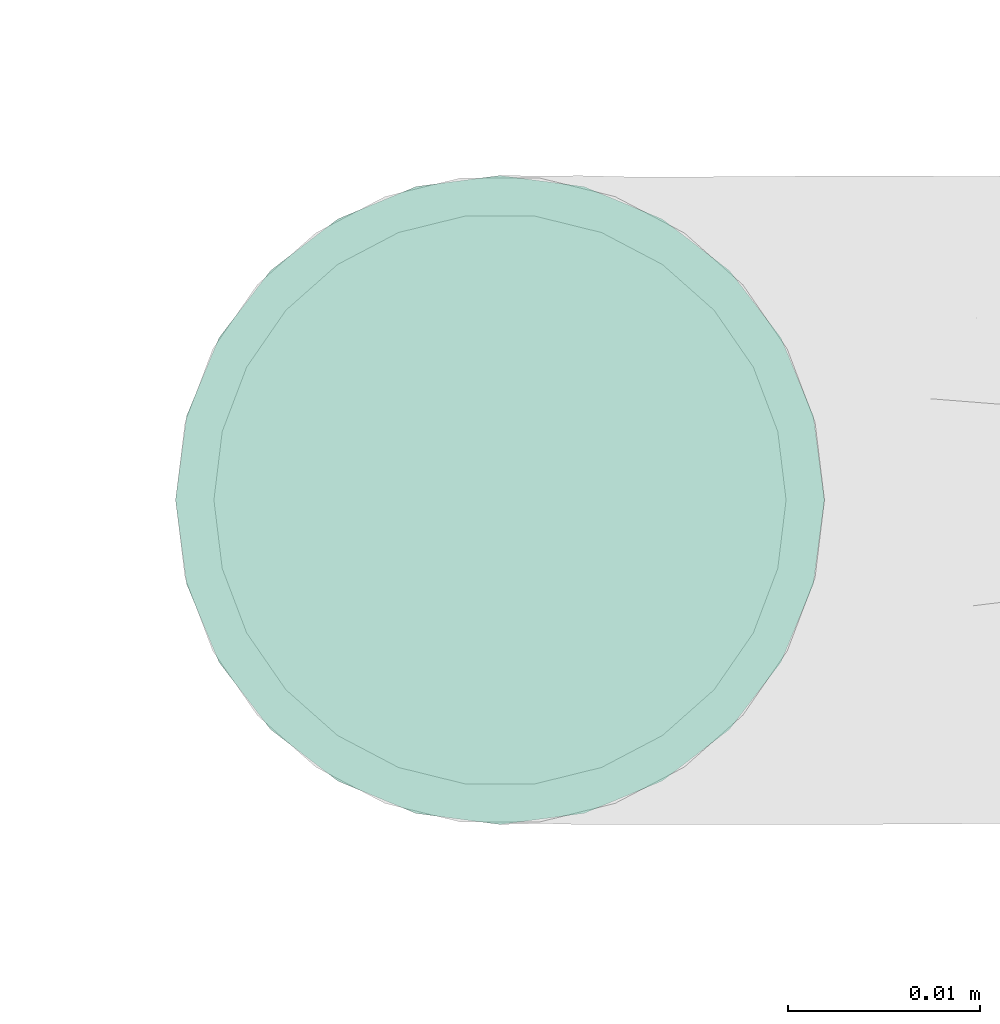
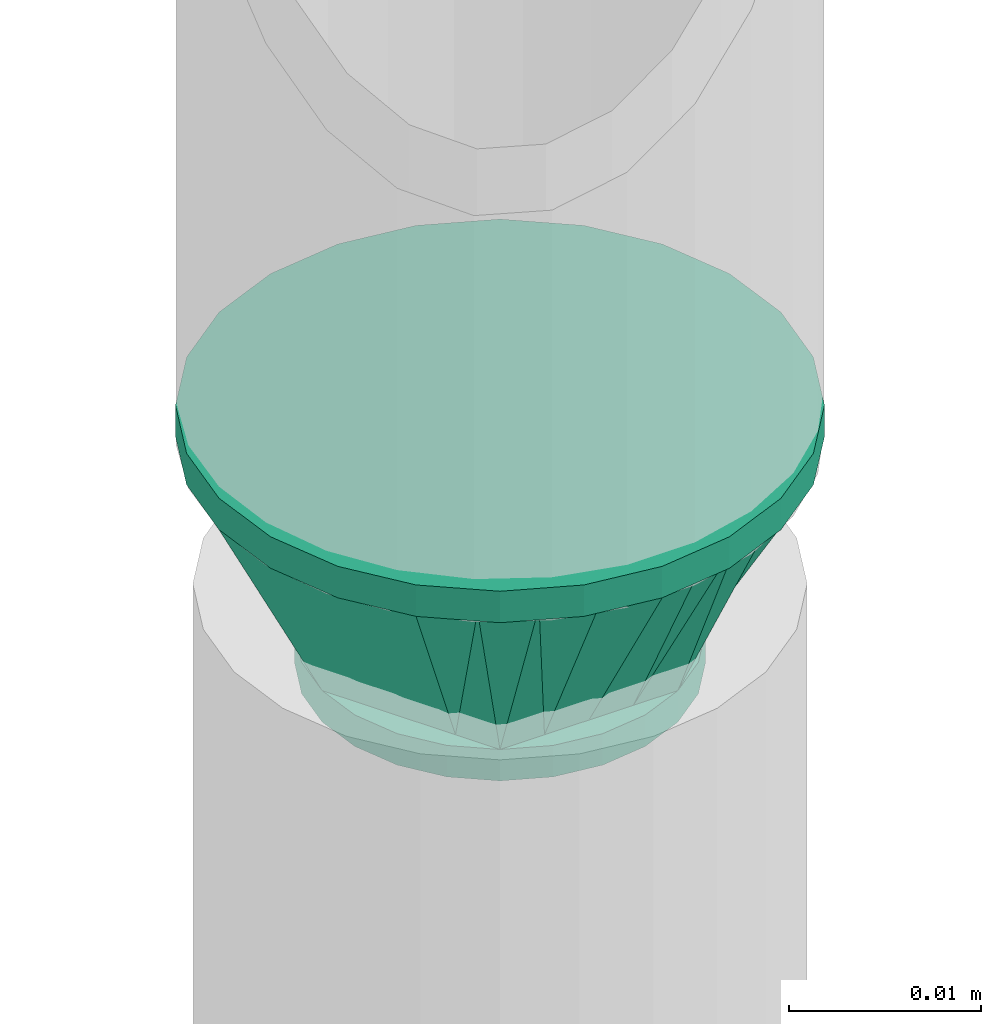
# One storey, part 40 of 94: 1 flow fitting.
"""IFC2X3 building model written with IfcOpenShell, lengths in millimetres."""

import ifcopenshell
import ifcopenshell.guid

model = None  # the IFC model being written
_history = None  # IfcOwnerHistory: only IFC2X3 demands one
_inside = {}  # id of a spatial element -> (the spatial element, [elements in it])
_under = {}  # id of a project, library or spatial element -> (it, [spatial elements below it])
_declared = {}  # id of a project -> (the project, [libraries it declares])
_typed = {}  # id of a type object -> (the type object, [elements of that type])
_made_of = {}  # id of a material, layer set ... -> (it, [elements and type objects made of it])


def new_model(schema):
    """Start an empty IFC model of exactly this schema.

    Asked for "IFC4X3", IfcOpenShell would pick the latest addendum, in which some entities
    have other attributes; the version numbers below select the first issue.
    IFC2X3 requires an IfcOwnerHistory on every rooted entity: one is made here for all.
    """
    global model, _history
    if schema == "IFC4X3":
        model = ifcopenshell.file(schema_version=(4, 3, 0, 0))
    else:
        model = ifcopenshell.file(schema=schema)
    _inside.clear()
    _under.clear()
    _declared.clear()
    _typed.clear()
    _made_of.clear()
    _history = None
    if model.schema == "IFC2X3":
        org = make("IfcOrganization", Name="unknown")
        user = make(
            "IfcPersonAndOrganization",
            ThePerson=make("IfcPerson", FamilyName="unknown"),
            TheOrganization=org,
        )
        app = make(
            "IfcApplication",
            ApplicationDeveloper=org,
            Version="unknown",
            ApplicationFullName="unknown",
            ApplicationIdentifier="unknown",
        )
        _history = make(
            "IfcOwnerHistory",
            OwningUser=user,
            OwningApplication=app,
            ChangeAction="ADDED",
            CreationDate=0,
        )
    return model


def make(cls, **values):
    """One entity of the class cls with the attributes given. An attribute that is None is left unset."""
    return model.create_entity(
        cls, **{name: value for name, value in values.items() if value is not None}
    )


def entity(cls, *values):
    """Any entity or typed value of the class cls, its attributes in the order of the schema. None: left unset."""
    e = model.create_entity(cls)
    for i, value in enumerate(values):
        if value is not None:
            e[i] = value
    return e


def rooted(cls, **values):
    """An entity with a GlobalId (a new one), such as an element, a storey or a relation."""
    return make(cls, GlobalId=ifcopenshell.guid.new(), OwnerHistory=_history, **values)


def si_unit(unit_type, name, prefix=None):
    """IfcSIUnit, for example si_unit("LENGTHUNIT", "METRE", prefix="MILLI")."""
    return make("IfcSIUnit", UnitType=unit_type, Prefix=prefix, Name=name)


def converted_unit(unit_type, name, factor, base, dimensions=None, offset=None):
    """IfcConversionBasedUnit, such as the inch: factor (a typed value) times the base unit."""
    return make(
        "IfcConversionBasedUnit"
        if offset is None
        else "IfcConversionBasedUnitWithOffset",
        ConversionOffset=offset,
        Dimensions=None
        if dimensions is None
        else entity("IfcDimensionalExponents", *dimensions),
        UnitType=unit_type,
        Name=name,
        ConversionFactor=make(
            "IfcMeasureWithUnit", ValueComponent=factor, UnitComponent=base
        ),
    )


def derived_unit(unit_type, elements):
    """IfcDerivedUnit: a product of units, each with its exponent."""
    return make(
        "IfcDerivedUnit",
        Elements=[
            make("IfcDerivedUnitElement", Unit=unit, Exponent=power)
            for unit, power in elements
        ],
        UnitType=unit_type,
    )


def assignment(units):
    """IfcUnitAssignment: the units of a project."""
    return None if units is None else make("IfcUnitAssignment", Units=units)


def point(xyz):
    """IfcCartesianPoint."""
    return None if xyz is None else make("IfcCartesianPoint", Coordinates=xyz)


def direction(xyz):
    """IfcDirection."""
    return None if xyz is None else make("IfcDirection", DirectionRatios=xyz)


def frame(location, z_axis=None, x_axis=None):
    """IfcAxis2Placement3D, a coordinate frame: its origin and axes. An axis left out is left unset."""
    return make(
        "IfcAxis2Placement3D",
        Location=point(location),
        Axis=direction(z_axis),
        RefDirection=direction(x_axis),
    )


def origin_with_axes():
    """The frame at (0, 0, 0) with the z axis (0, 0, 1) and the x axis (1, 0, 0) written out."""
    return frame((0.0, 0.0, 0.0), z_axis=(0.0, 0.0, 1.0), x_axis=(1.0, 0.0, 0.0))


def place(relative_to, where):
    """IfcLocalPlacement: puts the frame where relative to a parent placement (None: the world)."""
    return make(
        "IfcLocalPlacement", PlacementRelTo=relative_to, RelativePlacement=where
    )


def context(
    kind, dimensions, precision=None, world=None, true_north=None, identifier=None
):
    """IfcGeometricRepresentationContext, for example the 3D "Model" context."""
    return make(
        "IfcGeometricRepresentationContext",
        ContextIdentifier=identifier,
        ContextType=kind,
        CoordinateSpaceDimension=dimensions,
        Precision=precision,
        WorldCoordinateSystem=world,
        TrueNorth=true_north,
    )


def subcontext(parent, identifier, kind, view, scale=None):
    """IfcGeometricRepresentationSubContext, for example "Body" below "Model"."""
    return make(
        "IfcGeometricRepresentationSubContext",
        ContextIdentifier=identifier,
        ContextType=kind,
        ParentContext=parent,
        TargetScale=scale,
        TargetView=view,
    )


def project(units=None, contexts=None):
    """IfcProject with its units and contexts."""
    return rooted(
        "IfcProject",
        Name="project",
        RepresentationContexts=contexts,
        UnitsInContext=assignment(units),
    )


def spatial(cls, under=None, at=None, **own):
    """A site, building, storey or space (cls), placed at a placement, below another one or the project."""
    s = rooted(cls, ObjectPlacement=at, **own)
    if under is not None:
        _under.setdefault(under.id(), (under, []))[1].append(s)
    return s


def faces_of(points, faces, orient=None, outer=None):
    """IfcFace entities. A face is a list of loops; a loop is a list of indices into points, from 0.

    orient and outer hold one flag for each loop. By default every Orientation is true, the
    first loop of a face is its IfcFaceOuterBound and the others are IfcFaceBound.
    """
    made = []
    for i, loops in enumerate(faces):
        bounds = []
        for j, loop in enumerate(loops):
            is_outer = j == 0 if outer is None else outer[i][j]
            bounds.append(
                make(
                    "IfcFaceOuterBound" if is_outer else "IfcFaceBound",
                    Bound=make("IfcPolyLoop", Polygon=[points[k] for k in loop]),
                    Orientation=True if orient is None else orient[i][j],
                )
            )
        made.append(make("IfcFace", Bounds=bounds))
    return made


def open_shell(faces, orient=None, outer=None):
    """The faces of one IfcOpenShell. surface_model builds it on its shared points."""
    return ("IfcOpenShell", faces, orient, outer)


def surface_model(cls, points, shells):
    """IfcFaceBasedSurfaceModel or IfcShellBasedSurfaceModel (cls): surfaces that need not close."""
    shared = [point(p) for p in points]
    made = [make(c, CfsFaces=faces_of(shared, fs, o, b)) for c, fs, o, b in shells]
    if cls == "IfcFaceBasedSurfaceModel":
        return make(cls, FbsmFaces=made)
    return make(cls, SbsmBoundary=made)


def shape(context_of_items, identifier, shape_type, items):
    """IfcShapeRepresentation: the items that make up one representation, for example the "Body"."""
    return make(
        "IfcShapeRepresentation",
        ContextOfItems=context_of_items,
        RepresentationIdentifier=identifier,
        RepresentationType=shape_type,
        Items=items,
    )


def source(mapping_origin, context_of_items, identifier, shape_type, items):
    """IfcRepresentationMap: a shape defined once, which mapped items show again and again."""
    return make(
        "IfcRepresentationMap",
        MappingOrigin=mapping_origin,
        MappedRepresentation=shape(context_of_items, identifier, shape_type, items),
    )


def transform(
    local_origin,
    x_axis=None,
    y_axis=None,
    z_axis=None,
    scale=None,
    scale2=None,
    scale3=None,
    uniform=True,
):
    """IfcCartesianTransformationOperator3D, or its non-uniform kind. x_axis, y_axis, z_axis: its Axis1, 2, 3."""
    if uniform:
        return make(
            "IfcCartesianTransformationOperator3D",
            Axis1=direction(x_axis),
            Axis2=direction(y_axis),
            LocalOrigin=point(local_origin),
            Scale=scale,
            Axis3=direction(z_axis),
        )
    return make(
        "IfcCartesianTransformationOperator3DnonUniform",
        Axis1=direction(x_axis),
        Axis2=direction(y_axis),
        LocalOrigin=point(local_origin),
        Scale=scale,
        Axis3=direction(z_axis),
        Scale2=scale2,
        Scale3=scale3,
    )


def mapped(mapping_source, mapping_target):
    """IfcMappedItem: shows the shape of a source again, moved by a transform."""
    return make(
        "IfcMappedItem", MappingSource=mapping_source, MappingTarget=mapping_target
    )


def made_of(thing, what):
    """Note that an element or type object is made of a material, layer set ...; save() writes the relation."""
    if what is not None:
        _made_of.setdefault(what.id(), (what, []))[1].append(thing)
    return thing


def type_object(cls, material=None, **own):
    """A type object (cls), such as IfcWallType, which elements share."""
    return made_of(rooted(cls, **own), material)


def element(
    cls,
    number,
    at=None,
    inside=None,
    cuts=None,
    type_object=None,
    material=None,
    context=None,
    identifier="Body",
    shape_type=None,
    held_by="IfcProductDefinitionShape",
    body=None,
    shapes=None,
    **own,
):
    """One element of the class cls, such as IfcWall. Its Tag is "e" and its number.

    at: its placement. inside: the storey or other place that contains it. cuts: it is an
    opening in that element (IfcRelVoidsElement). A single representation is given by context,
    identifier, shape_type and body (its items); several are given by shapes. held_by: the class
    of the entity that holds the representations. save() writes the other relations.
    """
    e = rooted(cls, Tag="e%d" % number, ObjectPlacement=at, **own)
    if body is not None:
        shapes = [shape(context, identifier, shape_type, body)]
    if shapes is not None:
        e.Representation = make(held_by, Representations=shapes)
    if inside is not None:
        _inside.setdefault(inside.id(), (inside, []))[1].append(e)
    if cuts is not None:
        rooted(
            "IfcRelVoidsElement", RelatingBuildingElement=cuts, RelatedOpeningElement=e
        )
    if type_object is not None:
        _typed.setdefault(type_object.id(), (type_object, []))[1].append(e)
    return made_of(e, material)


def aggregate(whole, parts):
    """IfcRelAggregates: a whole, such as a stair, and the parts it consists of."""
    return rooted("IfcRelAggregates", RelatingObject=whole, RelatedObjects=parts)


def save(model, path):
    """Write the relations noted so far, then the file.

    IfcRelAggregates (storeys below a building ...), IfcRelContainedInSpatialStructure (elements
    in a storey), IfcRelDefinesByType, IfcRelAssociatesMaterial and IfcRelDeclares: one each for
    every whole, place, type object, material and project.
    """
    for whole, parts in _under.values():
        aggregate(whole, parts)
    for where, things in _inside.values():
        rooted(
            "IfcRelContainedInSpatialStructure",
            RelatedElements=things,
            RelatingStructure=where,
        )
    for kind, things in _typed.values():
        rooted("IfcRelDefinesByType", RelatedObjects=things, RelatingType=kind)
    for what, things in _made_of.values():
        rooted("IfcRelAssociatesMaterial", RelatedObjects=things, RelatingMaterial=what)
    for by, libraries in _declared.values():
        rooted("IfcRelDeclares", RelatingContext=by, RelatedDefinitions=libraries)
    model.write(path)


model = new_model("IFC2X3")

# Units and contexts
model_context = context("Model", 3, precision=0.01, world=frame((0.0, 4.29681676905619e-09, 0.0)), true_north=direction((4.01073788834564e-13, 1.0)))
plan_context = context("Plan", 3, precision=0.01, world=frame((0.0, 4.29681676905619e-09, 0.0)), true_north=direction((4.01073788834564e-13, 1.0)))
body_context = subcontext(model_context, "Body", "Model", "MODEL_VIEW")
ifc_project = project(units=[converted_unit("PLANEANGLEUNIT", "DEGREE", entity("IfcPositiveLengthMeasure", 0.0174532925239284), si_unit("PLANEANGLEUNIT", "RADIAN"), dimensions=[0, 0, 0, 0, 0, 0, 0]), si_unit("AREAUNIT", "SQUARE_METRE"), si_unit("LENGTHUNIT", "METRE", prefix="MILLI"), si_unit("MASSUNIT", "GRAM", prefix="KILO"), si_unit("POWERUNIT", "WATT"), si_unit("PRESSUREUNIT", "PASCAL", prefix="KILO"), si_unit("FORCEUNIT", "NEWTON", prefix="KILO"), si_unit("ELECTRICVOLTAGEUNIT", "VOLT"), si_unit("ELECTRICCURRENTUNIT", "AMPERE"), si_unit("THERMODYNAMICTEMPERATUREUNIT", "DEGREE_CELSIUS"), si_unit("TIMEUNIT", "SECOND"), si_unit("VOLUMEUNIT", "CUBIC_METRE"), derived_unit("LINEARVELOCITYUNIT", [(si_unit("LENGTHUNIT", "METRE"), 1), (si_unit("TIMEUNIT", "SECOND"), -1)]), derived_unit("VOLUMETRICFLOWRATEUNIT", [(si_unit("VOLUMEUNIT", "CUBIC_METRE"), 1), (si_unit("TIMEUNIT", "SECOND"), -1)]), derived_unit("THERMALTRANSMITTANCEUNIT", [(si_unit("POWERUNIT", "WATT"), 1), (si_unit("THERMODYNAMICTEMPERATUREUNIT", "KELVIN"), -1), (si_unit("AREAUNIT", "SQUARE_METRE"), -1)]), derived_unit("SOUNDPRESSUREUNIT", [(si_unit("PRESSUREUNIT", "PASCAL"), 1)])], contexts=[model_context, plan_context])

# Site, building, storey
site_placement = place(None, frame((0.0, -4.29681676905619e-09, 0.0), z_axis=(0.0, 0.0, 1.0), x_axis=(1.0, 0.0, 0.0)))
site = spatial("IfcSite", under=ifc_project, at=site_placement, CompositionType="ELEMENT")
building_placement = place(site_placement, frame((0.0, 4.29681676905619e-09, 0.0), z_axis=(0.0, 0.0, 1.0), x_axis=(1.0, 0.0, 0.0)))
building = spatial("IfcBuilding", under=site, at=building_placement, Name="mc-building", CompositionType="ELEMENT")
storey_placement = place(building_placement, frame((0.0, 0.0, 210900.0), z_axis=(0.0, 0.0, 1.0), x_axis=(1.0, 0.0, 0.0)))
storey = spatial("IfcBuildingStorey", under=building, at=storey_placement, Name="Nivå F", CompositionType="ELEMENT", Elevation=210900.0)

# Flow fitting
pipe_fitting_type = type_object("IfcPipeFittingType", Name="magi_pipe_fe_reducer_centric_short_NOR", PredefinedType="TRANSITION")
shared_shape = source(origin_with_axes(), body_context, "Body", "SurfaceModel", [
    surface_model("IfcShellBasedSurfaceModel", [(-2.0, -7.56604, -7.56604), (-2.0, -10.33541, -2.76936), (-2.0, -5.35, -9.26647), (-2.0, 5.35, -9.26647), (-2.0, 10.33541, -2.76936), (-2.0, 7.56604, -7.56604), (12.4, 11.9501, 11.9501), (12.4, 0.0, 16.9), (12.4, 11.9501, -11.9501), (12.4, 16.9, 0.0), (0.0, -10.7, 0.0), (0.0, -5.35, 9.26647), (0.0, -5.35, -9.26647), (0.0, 10.7, 0.0), (12.4, 15.66253, -2.98753), (12.4, 8.96258, -13.18758), (0.0, 6.6875, -6.94985), (12.4, -15.66253, -2.98753), (12.4, -16.9, 0.0), (12.4, 5.97505, -14.42505), (0.0, 5.35, -9.26647), (12.4, 14.42505, -5.97505), (0.0, 8.025, -4.63324), (0.0, 9.3625, -2.31662), (0.0, -9.3625, -2.31662), (0.0, -8.025, -4.63324), (12.4, -14.42505, -5.97505), (12.4, 13.18758, -8.96258), (12.4, -13.18758, -8.96258), (12.4, -11.9501, -11.9501), (0.0, -6.6875, -6.94985), (12.4, -8.96258, -13.18758), (12.4, -5.97505, -14.42505), (12.4, -15.66253, 2.98753), (12.4, -8.96258, 13.18758), (0.0, -6.6875, 6.94985), (12.4, -11.9501, 11.9501), (12.4, 15.66253, 2.98753), (12.4, -5.97505, 14.42505), (12.4, -14.42505, 5.97505), (0.0, -8.025, 4.63324), (0.0, -9.3625, 2.31662), (0.0, 9.3625, 2.31662), (0.0, 8.025, 4.63324), (12.4, 14.42505, 5.97505), (12.4, -13.18758, 8.96258), (12.4, 13.18758, 8.96258), (0.0, 6.6875, 6.94985), (12.4, 8.96258, 13.18758), (0.0, 5.35, 9.26647), (12.4, 5.97505, 14.42505), (14.4, 4.37404, -16.32415), (14.4, 8.45, -14.63583), (14.4, 11.9501, -11.9501), (14.4, -8.45, -14.63583), (14.4, 16.32415, -4.37404), (14.4, 16.32415, 4.37404), (14.4, 14.63583, -8.45), (14.4, 0.0, -16.9), (14.4, -4.37404, -16.32415), (14.4, -11.9501, -11.9501), (14.4, -16.32415, -4.37404), (14.4, -14.63583, -8.45), (14.4, -16.32415, 4.37404), (14.4, 16.9, 0.0), (14.4, 14.63583, 8.45), (14.4, 11.9501, 11.9501), (14.4, 4.37404, 16.32415), (14.4, 8.45, 14.63583), (14.4, 0.0, 16.9), (14.4, -14.63583, 8.45), (14.4, -16.9, 0.0), (14.4, -8.45, 14.63583), (14.4, -11.9501, 11.9501), (14.4, -4.37404, 16.32415), (12.4, 4.37404, 16.32415), (12.4, -14.63583, 8.45), (12.4, 16.32415, 4.37404), (12.4, 8.45, 14.63583), (12.4, 14.63583, 8.45), (12.4, -8.45, 14.63583), (12.4, -4.37404, 16.32415), (12.4, -16.32415, 4.37404), (12.4, -16.32415, -4.37404), (12.4, -8.45, -14.63583), (12.4, 16.32415, -4.37404), (12.4, 14.63583, -8.45), (12.4, 8.45, -14.63583), (12.4, 4.37404, -16.32415), (12.4, 0.0, -16.9), (12.4, -14.63583, -8.45), (12.4, -4.37404, -16.32415), (-2.0, 2.76936, 10.33541), (-2.0, 0.0, 10.7), (-2.0, 5.35, 9.26647), (-2.0, 7.56604, 7.56604), (-2.0, 9.26647, 5.35), (-2.0, 10.33541, 2.76936), (-2.0, -10.33541, 2.76936), (-2.0, -2.76936, 10.33541), (-2.0, -7.56604, 7.56604), (-2.0, -5.35, 9.26647), (-2.0, -9.26647, 5.35), (-2.0, -10.7, 0.0), (-2.0, 9.26647, -5.35), (-2.0, 2.76936, -10.33541), (-2.0, -9.26647, -5.35), (-2.0, 0.0, -10.7), (-2.0, -2.76936, -10.33541), (-2.0, 10.7, 0.0), (0.0, 0.0, -10.7), (0.0, 2.76936, -10.33541), (0.0, 10.33541, -2.76936), (0.0, 7.56604, -7.56604), (0.0, -10.33541, -2.76936), (0.0, 9.26647, -5.35), (0.0, 0.0, 10.7), (0.0, -2.76936, -10.33541), (0.0, -7.56604, -7.56604), (0.0, -9.26647, -5.35), (0.0, 10.33541, 2.76936), (0.0, 9.26647, 5.35), (0.0, 7.56604, 7.56604), (0.0, 2.76936, 10.33541), (0.0, -7.56604, 7.56604), (0.0, -10.33541, 2.76936), (0.0, -9.26647, 5.35), (0.0, -2.76936, 10.33541), (0.0, 2.675, -9.26647), (0.0, -2.675, -9.26647), (12.4, 2.98753, -15.66253), (0.0, 0.0, -9.26647), (12.4, -2.98753, -15.66253), (0.0, -2.675, 9.26647), (0.0, 2.675, 9.26647), (12.4, -2.98753, 15.66253), (0.0, 0.0, 9.26647), (12.4, 2.98753, 15.66253)], [open_shell([[[0, 1, 2]], [[3, 4, 5]], [[6, 7, 8]], [[8, 9, 6]], [[10, 11, 12]], [[13, 9, 14]], [[15, 16, 8]], [[17, 18, 10]], [[15, 19, 20]], [[21, 22, 23]], [[24, 25, 26]], [[22, 21, 27]], [[28, 26, 25]], [[29, 30, 31]], [[12, 32, 31]], [[10, 18, 33]], [[34, 35, 36]], [[37, 9, 13]], [[34, 38, 11]], [[39, 40, 41]], [[42, 43, 44]], [[40, 39, 45]], [[46, 44, 43]], [[6, 47, 48]], [[49, 50, 48]], [[51, 52, 53]], [[54, 51, 53]], [[53, 55, 56]], [[55, 53, 57]], [[53, 56, 54]], [[58, 54, 59]], [[58, 51, 54]], [[60, 61, 62]], [[61, 60, 54]], [[54, 63, 61]], [[56, 55, 64]], [[56, 65, 66]], [[56, 66, 67]], [[67, 63, 54]], [[67, 66, 68]], [[63, 67, 69]], [[69, 70, 63]], [[71, 61, 63]], [[70, 72, 73]], [[70, 69, 72]], [[72, 69, 74]], [[54, 56, 67]], [[75, 76, 7]], [[77, 75, 78]], [[6, 79, 77]], [[6, 77, 78]], [[76, 75, 77]], [[80, 76, 36]], [[80, 81, 7]], [[7, 76, 80]], [[82, 76, 77]], [[82, 83, 18]], [[82, 77, 84]], [[77, 85, 8]], [[8, 85, 86]], [[8, 87, 88]], [[84, 77, 8]], [[88, 89, 8]], [[83, 29, 90]], [[29, 83, 84]], [[84, 89, 91]], [[83, 82, 84]], [[8, 89, 84]], [[85, 77, 9]], [[83, 61, 18]], [[90, 62, 83]], [[54, 29, 84]], [[90, 29, 60]], [[59, 84, 91]], [[83, 62, 61]], [[61, 71, 18]], [[59, 54, 84]], [[60, 29, 54]], [[60, 62, 90]], [[58, 59, 91]], [[91, 89, 58]], [[88, 51, 89]], [[87, 52, 88]], [[57, 8, 86]], [[87, 8, 53]], [[55, 86, 85]], [[87, 53, 52]], [[52, 51, 88]], [[64, 55, 85]], [[57, 86, 55]], [[57, 53, 8]], [[9, 64, 85]], [[89, 51, 58]], [[77, 56, 9]], [[79, 65, 77]], [[68, 6, 78]], [[79, 6, 66]], [[67, 78, 75]], [[77, 65, 56]], [[56, 64, 9]], [[67, 68, 78]], [[66, 6, 68]], [[66, 65, 79]], [[69, 67, 75]], [[75, 7, 69]], [[81, 74, 7]], [[80, 72, 81]], [[70, 36, 76]], [[80, 36, 73]], [[63, 76, 82]], [[80, 73, 72]], [[72, 74, 81]], [[71, 63, 82]], [[70, 76, 63]], [[70, 73, 36]], [[18, 71, 82]], [[7, 74, 69]], [[92, 1, 93]], [[94, 1, 92]], [[95, 96, 97]], [[95, 97, 94]], [[98, 93, 1]], [[99, 100, 101]], [[99, 93, 100]], [[100, 98, 102]], [[93, 98, 100]], [[98, 1, 103]], [[94, 97, 1]], [[1, 97, 4]], [[5, 4, 104]], [[4, 3, 1]], [[105, 1, 3]], [[1, 0, 106]], [[2, 107, 108]], [[2, 1, 105]], [[105, 107, 2]], [[4, 97, 109]], [[20, 110, 111]], [[112, 20, 113]], [[114, 20, 112]], [[112, 113, 115]], [[116, 114, 112]], [[110, 12, 117]], [[110, 20, 12]], [[118, 114, 119]], [[114, 118, 12]], [[20, 114, 12]], [[112, 13, 120]], [[120, 121, 122]], [[120, 122, 123]], [[116, 112, 123]], [[123, 122, 49]], [[116, 124, 114]], [[125, 124, 126]], [[10, 114, 125]], [[124, 127, 11]], [[125, 114, 124]], [[127, 124, 116]], [[123, 112, 120]], [[1, 114, 103]], [[106, 119, 1]], [[12, 0, 2]], [[106, 0, 118]], [[117, 2, 108]], [[1, 119, 114]], [[114, 10, 103]], [[117, 12, 2]], [[118, 0, 12]], [[118, 119, 106]], [[110, 117, 108]], [[108, 107, 110]], [[105, 111, 107]], [[3, 20, 105]], [[115, 5, 104]], [[3, 5, 113]], [[112, 104, 4]], [[3, 113, 20]], [[20, 111, 105]], [[13, 112, 4]], [[115, 104, 112]], [[115, 113, 5]], [[109, 13, 4]], [[107, 111, 110]], [[97, 120, 109]], [[96, 121, 97]], [[49, 95, 94]], [[96, 95, 122]], [[123, 94, 92]], [[97, 121, 120]], [[120, 13, 109]], [[123, 49, 94]], [[122, 95, 49]], [[122, 121, 96]], [[116, 123, 92]], [[92, 93, 116]], [[99, 127, 93]], [[101, 11, 99]], [[126, 100, 102]], [[101, 100, 124]], [[125, 102, 98]], [[101, 124, 11]], [[11, 127, 99]], [[10, 125, 98]], [[126, 102, 125]], [[126, 124, 100]], [[103, 10, 98]], [[93, 127, 116]], [[18, 7, 36]], [[18, 29, 8]], [[89, 8, 29]], [[18, 8, 7]], [[13, 11, 49]], [[13, 20, 12]], [[13, 12, 11]], [[24, 26, 17]], [[10, 24, 17]], [[16, 15, 20]], [[30, 12, 31]], [[23, 14, 21]], [[19, 128, 20]], [[27, 8, 16]], [[32, 12, 129]], [[30, 28, 25]], [[130, 131, 128]], [[129, 132, 32]], [[16, 22, 27]], [[13, 14, 23]], [[128, 19, 130]], [[130, 89, 131]], [[131, 132, 129]], [[89, 132, 131]], [[28, 30, 29]], [[42, 44, 37]], [[13, 42, 37]], [[35, 34, 11]], [[47, 49, 48]], [[41, 33, 39]], [[38, 133, 11]], [[45, 36, 35]], [[50, 49, 134]], [[47, 46, 43]], [[135, 136, 133]], [[134, 137, 50]], [[35, 40, 45]], [[10, 33, 41]], [[133, 38, 135]], [[135, 7, 136]], [[136, 137, 134]], [[7, 137, 136]], [[46, 47, 6]]])]),
])
flow_fitting_placement = place(storey_placement, frame((716000.0, 441600.7, 2794.49074000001), z_axis=(0.0, 1.0, 0.0), x_axis=(0.0, 0.0, 1.0)))
element("IfcFlowFitting", 1, at=flow_fitting_placement, inside=storey, type_object=pipe_fitting_type, Name="magi_pipe_fe_reducer_centric_short_NOR", context=body_context, shape_type="MappedRepresentation", body=[
    mapped(shared_shape, transform((0.0, 0.0, 0.0), scale=1.0)),
])

save(model, "model.ifc")
